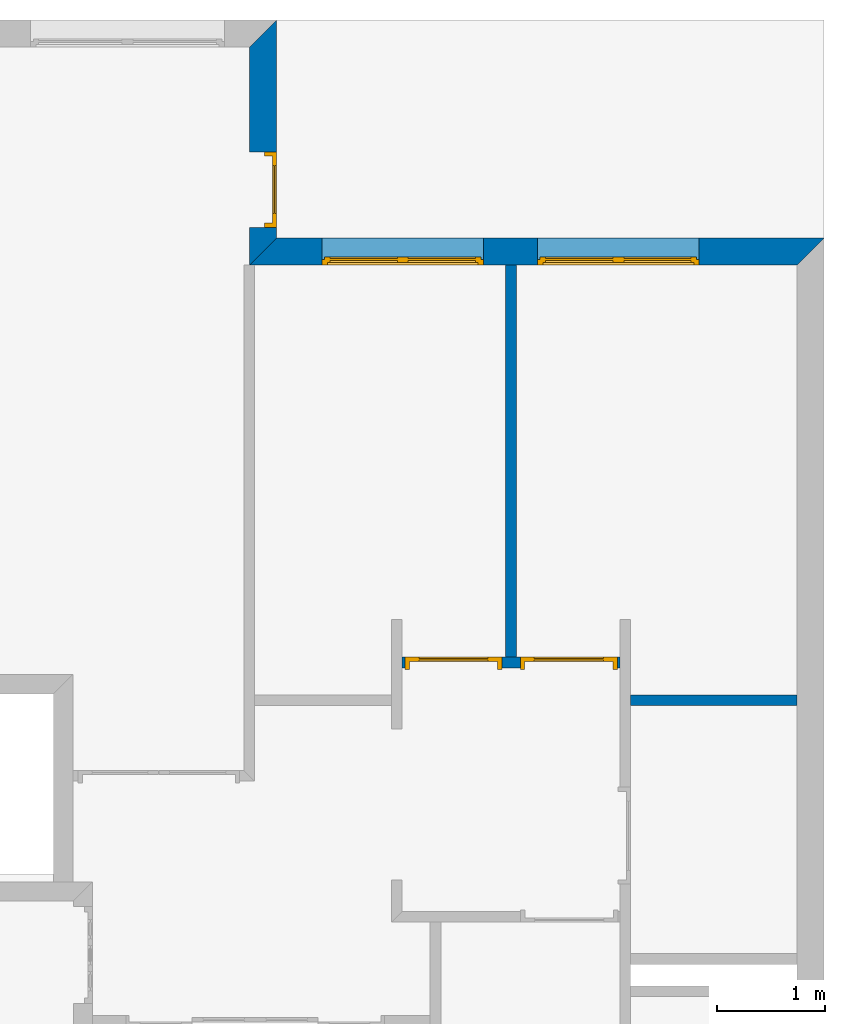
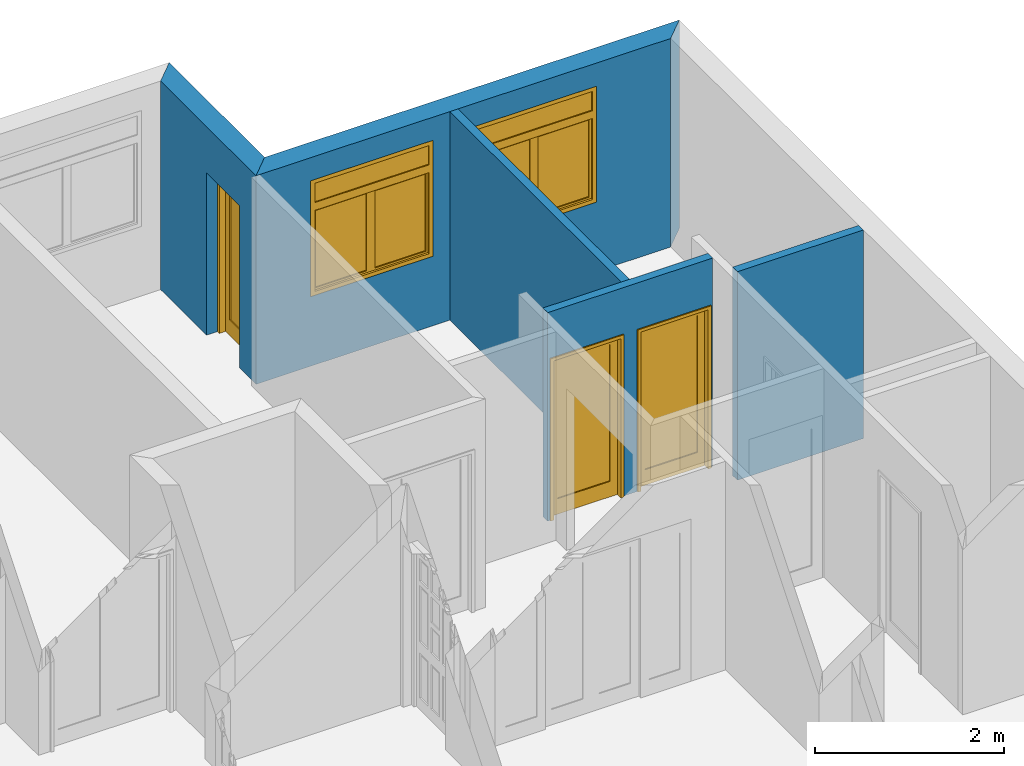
# One storey, part 12 of 12: 5 walls, 3 doors, 2 windows, 5 openings.
"""IFC2X3 building model written with IfcOpenShell, lengths in metres."""

from ifc_helpers import new_model, entity, si_unit, converted_unit, direction, frame, frame_2d, origin_with_axes, place, context, project, spatial, polyline, rectangle, outline, extrude, faceted_brep, source, transform, mapped, material, layer, layer_set, layer_usage, type_object, element, fill, save


model = new_model("IFC2X3")

# Units and contexts
context_of_model = context(None, 3, precision=1e-05, world=origin_with_axes(), true_north=direction((6.123234e-17, 1.0)))
plan_context = context("Plan", 3, precision=1e-05, world=origin_with_axes(), true_north=direction((6.123234e-17, 1.0)))
model_context = context("Model", 3, precision=1e-05, world=origin_with_axes(), true_north=direction((6.123234e-17, 1.0)))
ifc_project = project(units=[si_unit("LENGTHUNIT", "METRE"), si_unit("AREAUNIT", "SQUARE_METRE"), si_unit("VOLUMEUNIT", "CUBIC_METRE"), converted_unit("PLANEANGLEUNIT", "DEGREE", entity("IfcPlaneAngleMeasure", 0.017453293), si_unit("PLANEANGLEUNIT", "RADIAN"), dimensions=[0, 0, 0, 0, 0, 0, 0]), si_unit("SOLIDANGLEUNIT", "STERADIAN"), si_unit("MASSUNIT", "GRAM"), si_unit("TIMEUNIT", "SECOND"), si_unit("THERMODYNAMICTEMPERATUREUNIT", "DEGREE_CELSIUS"), si_unit("LUMINOUSINTENSITYUNIT", "LUMEN")], contexts=[context_of_model, plan_context, model_context])

# Site, building, storey
site_placement = place(None, origin_with_axes())
site = spatial("IfcSite", under=ifc_project, at=site_placement, Name="Por defecto Sitio", CompositionType="ELEMENT")
building_placement = place(site_placement, origin_with_axes())
building = spatial("IfcBuilding", under=site, at=building_placement, Name="Por defecto Edificio", CompositionType="ELEMENT")
storey_placement = place(building_placement, frame((0.0, 0.0, 10.2), z_axis=(0.0, 0.0, 1.0), x_axis=(1.0, 0.0, 0.0)))
storey = spatial("IfcBuildingStorey", under=building, at=storey_placement, Name="Tercera", CompositionType="ELEMENT", Elevation=10.2)

# Wall, opening, door
ifc_material = material(Name="Ladrillo común")
ifc_layer_1 = layer(ifc_material, 0.25, ventilated="UNKNOWN")
ifc_layer_set_1 = layer_set([ifc_layer_1], Name="Ladrillo común")
ifc_layer_usage_1 = layer_usage(ifc_layer_set_1, "AXIS2", "NEGATIVE", 0.0)
wall_type_1 = type_object("IfcWallType", Name="Ladrillo común", PredefinedType="NOTDEFINED")
wall_1_placement = place(storey_placement, frame((10.956053, 15.472599, 0.0), z_axis=(0.0, 0.0, 1.0), x_axis=(0.0, -1.0, 0.0)))
wall_1 = element("IfcWallStandardCase", 1, at=wall_1_placement, inside=storey, type_object=wall_type_1, material=ifc_layer_usage_1, Name="Muro-015", context=context_of_model, shape_type="SweptSolid", body=[
    extrude(outline(polyline([(0.25, -0.25), (2.2734265, -0.25), (2.0234265, 0.0), (0.0, 0.0), (0.25, -0.25)])), origin_with_axes(), (0.0, 0.0, 1.0), 2.7),
])
opening_1_placement = place(wall_1_placement, frame((1.5733904, -0.25, 0.0), z_axis=(0.0, 0.0, 1.0), x_axis=(1.0, 0.0, 0.0)))
opening_1 = element("IfcOpeningElement", 2, at=opening_1_placement, cuts=wall_1, ObjectType="Opening", context=model_context, shape_type="SweptSolid", body=[
    extrude(rectangle(XDim=0.7, YDim=2.1, at=frame_2d((0.0, 1.05), x_axis=(-1.0, 0.0))), frame((0.0, 0.0, 0.0), z_axis=(0.0, 1.0, 0.0), x_axis=(-1.0, 0.0, 0.0)), (0.0, 0.0, 1.0), 0.25),
])
door_style_1 = type_object("IfcDoorStyle", Name="P1 12", ConstructionType="NOTDEFINED", OperationType="SINGLE_SWING_RIGHT", ParameterTakesPrecedence=False, Sizeable=False)
shared_shape_1 = source(origin_with_axes(), model_context, "Body", "Brep", [
    faceted_brep([(0.04, 0.075, 0.0), (0.04, 0.075, 2.06), (0.04, 0.0, 2.06), (0.04, 0.0, 0.0), (0.028, 0.075, 2.06), (0.028, 0.075, 0.0), (0.028, 0.115, 2.06), (0.0, 0.115, 2.06), (0.0, 0.0, 2.06), (0.0, 0.0, 0.0), (0.0, 0.115, 0.0), (0.028, 0.115, 0.0)], [[[0, 1, 2, 3]], [[4, 1, 0, 5]], [[4, 6, 7, 8, 2, 1]], [[9, 3, 2, 8]], [[5, 0, 3, 9, 10, 11]], [[6, 4, 5, 11]], [[6, 11, 10, 7]], [[8, 7, 10, 9]]]),
    faceted_brep([(0.672, 0.075, 2.06), (0.66, 0.075, 2.06), (0.66, 0.0, 2.06), (0.7, 0.0, 2.06), (0.7, 0.115, 2.06), (0.672, 0.115, 2.06), (0.672, 0.075, 0.0), (0.66, 0.075, 0.0), (0.66, 0.0, 0.0), (0.7, 0.0, 0.0), (0.7, 0.115, 0.0), (0.672, 0.115, 0.0)], [[[0, 1, 2, 3, 4, 5]], [[1, 0, 6, 7]], [[1, 7, 8, 2]], [[8, 9, 3, 2]], [[9, 10, 4, 3]], [[11, 5, 4, 10]], [[0, 5, 11, 6]], [[6, 11, 10, 9, 8, 7]]]),
    faceted_brep([(0.028, 0.115, 2.072), (0.028, 0.115, 2.06), (0.0, 0.115, 2.06), (0.0, 0.115, 2.1), (0.7, 0.115, 2.1), (0.7, 0.115, 2.06), (0.672, 0.115, 2.06), (0.672, 0.115, 2.072), (0.028, 0.075, 2.072), (0.028, 0.075, 2.06), (0.04, 0.075, 2.06), (0.04, 0.0, 2.06), (0.0, 0.0, 2.06), (0.0, 0.0, 2.1), (0.7, 0.0, 2.1), (0.7, 0.0, 2.06), (0.672, 0.075, 2.06), (0.66, 0.0, 2.06), (0.66, 0.075, 2.06), (0.672, 0.075, 2.072)], [[[0, 1, 2, 3, 4, 5, 6, 7]], [[1, 0, 8, 9]], [[9, 10, 11, 12, 2, 1]], [[13, 3, 2, 12]], [[14, 4, 3, 13]], [[15, 5, 4, 14]], [[16, 6, 5, 15, 17, 18]], [[7, 6, 16, 19]], [[0, 7, 19, 8]], [[16, 18, 10, 9, 8, 19]], [[10, 18, 17, 11]], [[14, 13, 12, 11, 17, 15]]]),
    faceted_brep([(0.672, 0.115, 0.2), (0.672, 0.075, 0.2), (0.572, 0.075, 0.2), (0.572, 0.115, 0.2), (0.672, 0.115, 1.972), (0.672, 0.075, 1.972), (0.572, 0.075, 1.972), (0.572, 0.115, 1.972)], [[[0, 1, 2, 3]], [[4, 5, 1, 0]], [[1, 5, 6, 2]], [[3, 2, 6, 7]], [[0, 3, 7, 4]], [[7, 6, 5, 4]]]),
    faceted_brep([(0.028, 0.115, 0.2), (0.028, 0.075, 0.2), (0.028, 0.075, 1.972), (0.028, 0.115, 1.972), (0.128, 0.115, 0.2), (0.128, 0.075, 0.2), (0.128, 0.075, 1.972), (0.128, 0.115, 1.972)], [[[0, 1, 2, 3]], [[4, 5, 1, 0]], [[1, 5, 6, 2]], [[3, 2, 6, 7]], [[0, 3, 7, 4]], [[7, 6, 5, 4]]]),
    faceted_brep([(0.672, 0.115, 0.0), (0.672, 0.075, 0.0), (0.028, 0.075, 0.0), (0.028, 0.115, 0.0), (0.672, 0.115, 0.2), (0.672, 0.075, 0.2), (0.572, 0.075, 0.2), (0.128, 0.075, 0.2), (0.028, 0.075, 0.2), (0.028, 0.115, 0.2), (0.128, 0.115, 0.2), (0.572, 0.115, 0.2)], [[[0, 1, 2, 3]], [[4, 5, 1, 0]], [[1, 5, 6, 7, 8, 2]], [[3, 2, 8, 9]], [[0, 3, 9, 10, 11, 4]], [[11, 6, 5, 4]], [[10, 7, 6, 11]], [[9, 8, 7, 10]]]),
    faceted_brep([(0.672, 0.115, 2.072), (0.672, 0.075, 2.072), (0.672, 0.075, 1.972), (0.672, 0.115, 1.972), (0.028, 0.115, 2.072), (0.028, 0.075, 2.072), (0.028, 0.075, 1.972), (0.128, 0.075, 1.972), (0.572, 0.075, 1.972), (0.572, 0.115, 1.972), (0.128, 0.115, 1.972), (0.028, 0.115, 1.972)], [[[0, 1, 2, 3]], [[4, 5, 1, 0]], [[1, 5, 6, 7, 8, 2]], [[3, 2, 8, 9]], [[0, 3, 9, 10, 11, 4]], [[11, 6, 5, 4]], [[10, 7, 6, 11]], [[9, 8, 7, 10]]]),
    faceted_brep([(0.572, 0.101, 0.2), (0.572, 0.089, 0.2), (0.128, 0.089, 0.2), (0.128, 0.101, 0.2), (0.572, 0.101, 1.972), (0.572, 0.089, 1.972), (0.128, 0.089, 1.972), (0.128, 0.101, 1.972)], [[[0, 1, 2, 3]], [[4, 5, 1, 0]], [[1, 5, 6, 2]], [[3, 2, 6, 7]], [[0, 3, 7, 4]], [[7, 6, 5, 4]]]),
])
door_1_placement = place(opening_1_placement, frame((-0.35, 0.135, 0.0), z_axis=(0.0, 0.0, 1.0), x_axis=(1.0, 0.0, 0.0)))
door_1 = element("IfcDoor", 3, at=door_1_placement, inside=storey, type_object=door_style_1, Name="P20", OverallHeight=2.1, OverallWidth=0.7, context=model_context, shape_type="MappedRepresentation", body=[
    mapped(shared_shape_1, transform((0.0, 0.0, 0.0), scale=1.0)),
])
fill(opening_1, door_1)

# Wall, openings, windows
ifc_layer_usage_2 = layer_usage(ifc_layer_set_1, "AXIS2", "NEGATIVE", 0.0)
wall_2_placement = place(storey_placement, frame((10.956053, 13.449173, 0.0), z_axis=(0.0, 0.0, 1.0), x_axis=(1.0, 0.0, 0.0)))
wall_2 = element("IfcWallStandardCase", 4, at=wall_2_placement, inside=storey, type_object=wall_type_1, material=ifc_layer_usage_2, Name="Muro-016", context=context_of_model, shape_type="SweptSolid", body=[
    extrude(outline(polyline([(-0.25, -0.25), (4.8281164, -0.25), (5.0781164, 0.0), (0.0, 0.0), (-0.25, -0.25)])), origin_with_axes(), (0.0, 0.0, 1.0), 2.7),
])
opening_2_placement = place(wall_2_placement, frame((1.1700422, -0.25, 0.9), z_axis=(0.0, 0.0, 1.0), x_axis=(1.0, 0.0, 0.0)))
opening_2 = element("IfcOpeningElement", 5, at=opening_2_placement, cuts=wall_2, ObjectType="Opening", context=model_context, shape_type="SweptSolid", body=[
    extrude(rectangle(XDim=1.5, YDim=1.5, at=frame_2d((0.0, 0.75), x_axis=(-1.0, 0.0))), frame((0.0, 0.0, 0.0), z_axis=(0.0, 1.0, 0.0), x_axis=(-1.0, 0.0, 0.0)), (0.0, 0.0, 1.0), 0.25),
])
opening_3_placement = place(wall_2_placement, frame((3.1700422, -0.25, 0.9), z_axis=(0.0, 0.0, 1.0), x_axis=(1.0, 0.0, 0.0)))
opening_3 = element("IfcOpeningElement", 6, at=opening_3_placement, cuts=wall_2, ObjectType="Opening", context=model_context, shape_type="SweptSolid", body=[
    extrude(rectangle(XDim=1.5, YDim=1.5, at=frame_2d((0.0, 0.75), x_axis=(-1.0, 0.0))), frame((0.0, 0.0, 0.0), z_axis=(0.0, 1.0, 0.0), x_axis=(-1.0, 0.0, 0.0)), (0.0, 0.0, 1.0), 0.25),
])
window_style_1 = type_object("IfcWindowStyle", Name="V M Doble 12", ConstructionType="NOTDEFINED", OperationType="DOUBLE_PANEL_HORIZONTAL", ParameterTakesPrecedence=False, Sizeable=False)
shared_shape_2 = source(origin_with_axes(), model_context, "Body", "Brep", [
    faceted_brep([(1.475, 0.05, 0.05), (1.475, 0.05, 1.125), (1.45, 0.05, 1.125), (1.45, 0.05, 1.2), (1.45, 0.05, 1.45), (1.5, 0.05, 1.45), (1.5, 0.05, 0.05), (1.475, 0.025, 0.05), (1.475, 0.025, 1.125), (1.45, 0.025, 1.125), (1.45, 0.025, 1.1), (1.45, 0.0, 1.1), (1.45, 0.0, 1.2), (1.45, 0.0, 1.45), (1.5, 0.0, 1.45), (1.5, 0.0, 0.05), (1.45, 0.0, 0.05), (1.45, 0.025, 0.05)], [[[0, 1, 2, 3, 4, 5, 6]], [[1, 0, 7, 8]], [[9, 2, 1, 8]], [[9, 10, 11, 12, 3, 2]], [[3, 12, 13, 4]], [[4, 13, 14, 5]], [[5, 14, 15, 6]], [[7, 0, 6, 15, 16, 17]], [[10, 9, 8, 7, 17]], [[10, 17, 16, 11]], [[12, 11, 16, 15, 14, 13]]]),
    faceted_brep([(0.025, 0.05, 1.125), (0.025, 0.05, 0.05), (0.0, 0.05, 0.05), (0.0, 0.05, 1.45), (0.05, 0.05, 1.45), (0.05, 0.05, 1.2), (0.05, 0.05, 1.125), (0.025, 0.025, 1.125), (0.025, 0.025, 0.05), (0.05, 0.025, 0.05), (0.05, 0.0, 0.05), (0.0, 0.0, 0.05), (0.0, 0.0, 1.45), (0.05, 0.0, 1.45), (0.05, 0.0, 1.2), (0.05, 0.025, 1.125), (0.05, 0.0, 1.1), (0.05, 0.025, 1.1)], [[[0, 1, 2, 3, 4, 5, 6]], [[1, 0, 7, 8]], [[8, 9, 10, 11, 2, 1]], [[2, 11, 12, 3]], [[3, 12, 13, 4]], [[4, 13, 14, 5]], [[15, 6, 5, 14, 16, 17]], [[0, 6, 15, 7]], [[9, 8, 7, 15, 17]], [[9, 17, 16, 10]], [[11, 10, 16, 14, 13, 12]]]),
    faceted_brep([(1.45, 0.05, 1.125), (0.75, 0.05, 1.125), (0.05, 0.05, 1.125), (0.05, 0.05, 1.2), (1.45, 0.05, 1.2), (1.45, 0.025, 1.125), (0.75, 0.025, 1.125), (0.05, 0.025, 1.125), (0.05, 0.025, 1.1), (0.05, 0.0, 1.1), (0.05, 0.0, 1.2), (1.45, 0.0, 1.2), (1.45, 0.0, 1.1), (1.45, 0.025, 1.1)], [[[0, 1, 2, 3, 4]], [[1, 0, 5, 6]], [[7, 2, 1, 6]], [[7, 8, 9, 10, 3, 2]], [[3, 10, 11, 4]], [[5, 0, 4, 11, 12, 13]], [[8, 7, 6, 5, 13]], [[8, 13, 12, 9]], [[10, 9, 12, 11]]]),
    faceted_brep([(0.05, 0.025, 0.05), (0.025, 0.025, 0.05), (0.025, 0.05, 0.05), (0.0, 0.05, 0.05), (0.0, 0.0, 0.05), (0.05, 0.0, 0.05), (1.45, 0.025, 0.05), (1.475, 0.025, 0.05), (1.475, 0.025, 0.025), (0.75, 0.025, 0.025), (0.025, 0.025, 0.025), (0.025, 0.05, 0.025), (1.475, 0.05, 0.025), (1.475, 0.05, 0.05), (1.5, 0.05, 0.05), (1.5, 0.05, 0.0), (0.0, 0.05, 0.0), (0.75, 0.05, 0.025), (0.0, 0.0, 0.0), (1.5, 0.0, 0.05), (1.45, 0.0, 0.05), (1.5, 0.0, 0.0)], [[[0, 1, 2, 3, 4, 5]], [[1, 0, 6, 7, 8, 9, 10]], [[11, 2, 1, 10]], [[12, 13, 14, 15, 16, 3, 2, 11, 17]], [[16, 18, 4, 3]], [[19, 20, 5, 4, 18, 21]], [[6, 0, 5, 20]], [[7, 6, 20, 19, 14, 13]], [[7, 13, 12, 8]], [[12, 17, 9, 8]], [[17, 11, 10, 9]], [[14, 19, 21, 15]], [[15, 21, 18, 16]]]),
    faceted_brep([(0.05, 0.0, 1.45), (0.0, 0.0, 1.45), (0.0, 0.05, 1.45), (0.05, 0.05, 1.45), (1.45, 0.0, 1.45), (1.5, 0.0, 1.45), (1.5, 0.0, 1.5), (0.0, 0.0, 1.5), (0.0, 0.05, 1.5), (1.5, 0.05, 1.5), (1.5, 0.05, 1.45), (1.45, 0.05, 1.45)], [[[0, 1, 2, 3]], [[0, 4, 5, 6, 7, 1]], [[1, 7, 8, 2]], [[3, 2, 8, 9, 10, 11]], [[4, 0, 3, 11]], [[5, 4, 11, 10]], [[6, 5, 10, 9]], [[7, 6, 9, 8]]]),
    faceted_brep([(0.075, 0.025, 0.075), (0.075, 0.075, 0.075), (0.075, 0.075, 1.075), (0.075, 0.025, 1.075), (0.025, 0.025, 0.075), (0.025, 0.075, 0.075), (0.025, 0.075, 1.075), (0.025, 0.025, 1.075)], [[[0, 1, 2, 3]], [[4, 5, 1, 0]], [[1, 5, 6, 2]], [[3, 2, 6, 7]], [[0, 3, 7, 4]], [[7, 6, 5, 4]]]),
    faceted_brep([(0.75, 0.025, 0.075), (0.75, 0.075, 0.075), (0.75, 0.075, 1.075), (0.75, 0.025, 1.075), (0.7, 0.025, 0.075), (0.7, 0.075, 0.075), (0.7, 0.075, 1.075), (0.7, 0.025, 1.075)], [[[0, 1, 2, 3]], [[4, 5, 1, 0]], [[1, 5, 6, 2]], [[3, 2, 6, 7]], [[0, 3, 7, 4]], [[7, 6, 5, 4]]]),
    faceted_brep([(0.75, 0.025, 0.025), (0.75, 0.075, 0.025), (0.75, 0.075, 0.075), (0.75, 0.025, 0.075), (0.025, 0.025, 0.025), (0.025, 0.075, 0.025), (0.025, 0.075, 0.075), (0.075, 0.075, 0.075), (0.7, 0.075, 0.075), (0.7, 0.025, 0.075), (0.075, 0.025, 0.075), (0.025, 0.025, 0.075)], [[[0, 1, 2, 3]], [[4, 5, 1, 0]], [[1, 5, 6, 7, 8, 2]], [[3, 2, 8, 9]], [[0, 3, 9, 10, 11, 4]], [[11, 6, 5, 4]], [[10, 7, 6, 11]], [[9, 8, 7, 10]]]),
    faceted_brep([(0.025, 0.025, 1.125), (0.025, 0.075, 1.125), (0.025, 0.075, 1.075), (0.025, 0.025, 1.075), (0.75, 0.025, 1.125), (0.75, 0.075, 1.125), (0.75, 0.075, 1.075), (0.7, 0.075, 1.075), (0.075, 0.075, 1.075), (0.075, 0.025, 1.075), (0.7, 0.025, 1.075), (0.75, 0.025, 1.075)], [[[0, 1, 2, 3]], [[4, 5, 1, 0]], [[1, 5, 6, 7, 8, 2]], [[3, 2, 8, 9]], [[0, 3, 9, 10, 11, 4]], [[11, 6, 5, 4]], [[10, 7, 6, 11]], [[9, 8, 7, 10]]]),
    faceted_brep([(0.075, 0.04, 0.075), (0.075, 0.06, 0.075), (0.7, 0.06, 0.075), (0.7, 0.04, 0.075), (0.075, 0.04, 1.075), (0.075, 0.06, 1.075), (0.7, 0.06, 1.075), (0.7, 0.04, 1.075)], [[[0, 1, 2, 3]], [[4, 5, 1, 0]], [[1, 5, 6, 2]], [[3, 2, 6, 7]], [[0, 3, 7, 4]], [[7, 6, 5, 4]]]),
    faceted_brep([(0.8, 0.025, 0.075), (0.8, 0.075, 0.075), (0.8, 0.075, 1.075), (0.8, 0.025, 1.075), (0.75, 0.025, 0.075), (0.75, 0.075, 0.075), (0.75, 0.075, 1.075), (0.75, 0.025, 1.075)], [[[0, 1, 2, 3]], [[4, 5, 1, 0]], [[1, 5, 6, 2]], [[3, 2, 6, 7]], [[0, 3, 7, 4]], [[7, 6, 5, 4]]]),
    faceted_brep([(1.475, 0.025, 0.075), (1.475, 0.075, 0.075), (1.475, 0.075, 1.075), (1.475, 0.025, 1.075), (1.425, 0.025, 0.075), (1.425, 0.075, 0.075), (1.425, 0.075, 1.075), (1.425, 0.025, 1.075)], [[[0, 1, 2, 3]], [[4, 5, 1, 0]], [[1, 5, 6, 2]], [[3, 2, 6, 7]], [[0, 3, 7, 4]], [[7, 6, 5, 4]]]),
    faceted_brep([(1.475, 0.025, 0.025), (1.475, 0.075, 0.025), (1.475, 0.075, 0.075), (1.475, 0.025, 0.075), (0.75, 0.025, 0.025), (0.75, 0.075, 0.025), (0.75, 0.075, 0.075), (0.8, 0.075, 0.075), (1.425, 0.075, 0.075), (1.425, 0.025, 0.075), (0.8, 0.025, 0.075), (0.75, 0.025, 0.075)], [[[0, 1, 2, 3]], [[4, 5, 1, 0]], [[1, 5, 6, 7, 8, 2]], [[3, 2, 8, 9]], [[0, 3, 9, 10, 11, 4]], [[11, 6, 5, 4]], [[10, 7, 6, 11]], [[9, 8, 7, 10]]]),
    faceted_brep([(0.75, 0.025, 1.125), (0.75, 0.075, 1.125), (0.75, 0.075, 1.075), (0.75, 0.025, 1.075), (1.475, 0.025, 1.125), (1.475, 0.075, 1.125), (1.475, 0.075, 1.075), (1.425, 0.075, 1.075), (0.8, 0.075, 1.075), (0.8, 0.025, 1.075), (1.425, 0.025, 1.075), (1.475, 0.025, 1.075)], [[[0, 1, 2, 3]], [[4, 5, 1, 0]], [[1, 5, 6, 7, 8, 2]], [[3, 2, 8, 9]], [[0, 3, 9, 10, 11, 4]], [[11, 6, 5, 4]], [[10, 7, 6, 11]], [[9, 8, 7, 10]]]),
    faceted_brep([(0.8, 0.04, 0.075), (0.8, 0.06, 0.075), (1.425, 0.06, 0.075), (1.425, 0.04, 0.075), (0.8, 0.04, 1.075), (0.8, 0.06, 1.075), (1.425, 0.06, 1.075), (1.425, 0.04, 1.075)], [[[0, 1, 2, 3]], [[4, 5, 1, 0]], [[1, 5, 6, 2]], [[3, 2, 6, 7]], [[0, 3, 7, 4]], [[7, 6, 5, 4]]]),
    faceted_brep([(0.05, 0.015, 1.2), (0.05, 0.035, 1.2), (1.45, 0.035, 1.2), (1.45, 0.015, 1.2), (0.05, 0.015, 1.45), (0.05, 0.035, 1.45), (1.45, 0.035, 1.45), (1.45, 0.015, 1.45)], [[[0, 1, 2, 3]], [[4, 5, 1, 0]], [[1, 5, 6, 2]], [[3, 2, 6, 7]], [[0, 3, 7, 4]], [[7, 6, 5, 4]]]),
])
window_1_placement = place(opening_2_placement, frame((-0.75, 0.0, 0.0), z_axis=(0.0, 0.0, 1.0), x_axis=(1.0, 0.0, 0.0)))
window_1 = element("IfcWindow", 7, at=window_1_placement, inside=storey, type_object=window_style_1, Name="V06", OverallHeight=1.5, OverallWidth=1.5, context=model_context, shape_type="MappedRepresentation", body=[
    mapped(shared_shape_2, transform((0.0, 0.0, 0.0), scale=1.0)),
])
fill(opening_2, window_1)
window_style_2 = type_object("IfcWindowStyle", Name="V M Doble 12", ConstructionType="NOTDEFINED", OperationType="DOUBLE_PANEL_HORIZONTAL", ParameterTakesPrecedence=False, Sizeable=False)
window_2_placement = place(opening_3_placement, frame((-0.75, 0.0, 0.0), z_axis=(0.0, 0.0, 1.0), x_axis=(1.0, 0.0, 0.0)))
window_2 = element("IfcWindow", 8, at=window_2_placement, inside=storey, type_object=window_style_2, Name="V07", OverallHeight=1.5, OverallWidth=1.5, context=model_context, shape_type="MappedRepresentation", body=[
    mapped(shared_shape_2, transform((0.0, 0.0, 0.0), scale=1.0)),
])
fill(opening_3, window_2)

# Wall, openings, doors
ifc_layer_2 = layer(ifc_material, 0.1, ventilated="UNKNOWN")
ifc_layer_set_2 = layer_set([ifc_layer_2], Name="Ladrillo común")
ifc_layer_usage_3 = layer_usage(ifc_layer_set_2, "AXIS2", "NEGATIVE", 0.0)
wall_type_2 = type_object("IfcWallType", Name="Ladrillo común", PredefinedType="NOTDEFINED")
wall_3_placement = place(storey_placement, frame((14.139835, 9.4609196, 0.0), z_axis=(0.0, 0.0, 1.0), x_axis=(-1.0, 0.0, 0.0)))
wall_3 = element("IfcWallStandardCase", 9, at=wall_3_placement, inside=storey, type_object=wall_type_2, material=ifc_layer_usage_3, Name="Muro-038", context=context_of_model, shape_type="SweptSolid", body=[
    extrude(outline(polyline([(0.0, -0.1), (2.02, -0.1), (2.02, 0.0), (0.0, 0.0), (0.0, -0.1)])), origin_with_axes(), (0.0, 0.0, 1.0), 2.7),
])
opening_4_placement = place(wall_3_placement, frame((0.47352068, -0.1, 0.0), z_axis=(0.0, 0.0, 1.0), x_axis=(1.0, 0.0, 0.0)))
opening_4 = element("IfcOpeningElement", 10, at=opening_4_placement, cuts=wall_3, ObjectType="Opening", context=model_context, shape_type="SweptSolid", body=[
    extrude(rectangle(XDim=0.9, YDim=2.1, at=frame_2d((0.0, 1.05), x_axis=(-1.0, 0.0))), frame((0.0, 0.0, 0.0), z_axis=(0.0, 1.0, 0.0), x_axis=(-1.0, 0.0, 0.0)), (0.0, 0.0, 1.0), 0.1),
])
opening_5_placement = place(wall_3_placement, frame((1.5434387, -0.1, 0.0), z_axis=(0.0, 0.0, 1.0), x_axis=(1.0, 0.0, 0.0)))
opening_5 = element("IfcOpeningElement", 11, at=opening_5_placement, cuts=wall_3, ObjectType="Opening", context=model_context, shape_type="SweptSolid", body=[
    extrude(rectangle(XDim=0.9, YDim=2.1, at=frame_2d((0.0, 1.05), x_axis=(1.0, 0.0))), frame((0.0, 0.0, 0.0), z_axis=(0.0, 1.0, 0.0), x_axis=(-1.0, 0.0, 0.0)), (0.0, 0.0, 1.0), 0.1),
])
door_style_2 = type_object("IfcDoorStyle", Name="P1 12", ConstructionType="NOTDEFINED", OperationType="SINGLE_SWING_RIGHT", ParameterTakesPrecedence=False, Sizeable=False)
shared_shape_3 = source(origin_with_axes(), model_context, "Body", "Brep", [
    faceted_brep([(0.04, 0.075, -2.4492936e-18), (0.04, 0.075, 2.06), (0.04, -9.3258734e-14, 2.06), (0.04, -9.3258734e-14, -7.0417191e-18), (0.028, 0.075, 2.06), (0.028, 0.075, -2.4492936e-18), (0.028, 0.115, 2.06), (2.220446e-16, 0.115, 2.06), (1.7763568e-15, -9.4146912e-14, 2.06), (0.0, 0.0, 0.0), (2.220446e-16, 0.115, 3.3744595e-33), (0.028, 0.115, 3.2707143e-33)], [[[0, 1, 2, 3]], [[4, 1, 0, 5]], [[4, 6, 7, 8, 2, 1]], [[9, 3, 2, 8]], [[5, 0, 3, 9, 10, 11]], [[6, 4, 5, 11]], [[6, 11, 10, 7]], [[8, 7, 10, 9]]]),
    faceted_brep([(0.872, 0.075, 2.06), (0.86, 0.075, 2.06), (0.86, -8.0824236e-14, 2.06), (0.9, -7.9936058e-14, 2.06), (0.9, 0.115, 2.06), (0.872, 0.115, 2.06), (0.872, 0.075, -2.4492936e-18), (0.86, 0.075, -2.4492936e-18), (0.86, -8.0824236e-14, -7.0417191e-18), (0.9, -7.9936058e-14, -7.0417191e-18), (0.9, 0.115, -3.3744595e-33), (0.872, 0.115, -3.1644931e-33)], [[[0, 1, 2, 3, 4, 5]], [[1, 0, 6, 7]], [[1, 7, 8, 2]], [[8, 9, 3, 2]], [[9, 10, 4, 3]], [[11, 5, 4, 10]], [[0, 5, 11, 6]], [[6, 11, 10, 9, 8, 7]]]),
    faceted_brep([(0.028, 0.115, 2.072), (0.028, 0.115, 2.06), (2.220446e-16, 0.115, 2.06), (2.220446e-16, 0.115, 2.1), (0.9, 0.115, 2.1), (0.9, 0.115, 2.06), (0.872, 0.115, 2.06), (0.872, 0.115, 2.072), (0.028, 0.075, 2.072), (0.028, 0.075, 2.06), (0.04, 0.075, 2.06), (0.04, -9.3258734e-14, 2.06), (1.7763568e-15, -9.4146912e-14, 2.06), (1.7763568e-15, -9.4146912e-14, 2.1), (0.9, -7.9936058e-14, 2.1), (0.9, -7.9936058e-14, 2.06), (0.872, 0.075, 2.06), (0.86, -8.0824236e-14, 2.06), (0.86, 0.075, 2.06), (0.872, 0.075, 2.072)], [[[0, 1, 2, 3, 4, 5, 6, 7]], [[1, 0, 8, 9]], [[9, 10, 11, 12, 2, 1]], [[13, 3, 2, 12]], [[14, 4, 3, 13]], [[15, 5, 4, 14]], [[16, 6, 5, 15, 17, 18]], [[7, 6, 16, 19]], [[0, 7, 19, 8]], [[16, 18, 10, 9, 8, 19]], [[10, 18, 17, 11]], [[14, 13, 12, 11, 17, 15]]]),
    faceted_brep([(0.872, 0.115, 0.2), (0.872, 0.075, 0.2), (0.772, 0.075, 0.2), (0.772, 0.115, 0.2), (0.872, 0.115, 1.972), (0.872, 0.075, 1.972), (0.772, 0.075, 1.972), (0.772, 0.115, 1.972)], [[[0, 1, 2, 3]], [[4, 5, 1, 0]], [[1, 5, 6, 2]], [[3, 2, 6, 7]], [[0, 3, 7, 4]], [[7, 6, 5, 4]]]),
    faceted_brep([(0.028, 0.115, 0.2), (0.028, 0.075, 0.2), (0.028, 0.075, 1.972), (0.028, 0.115, 1.972), (0.128, 0.115, 0.2), (0.128, 0.075, 0.2), (0.128, 0.075, 1.972), (0.128, 0.115, 1.972)], [[[0, 1, 2, 3]], [[4, 5, 1, 0]], [[1, 5, 6, 2]], [[3, 2, 6, 7]], [[0, 3, 7, 4]], [[7, 6, 5, 4]]]),
    faceted_brep([(0.872, 0.115, -3.1644931e-33), (0.872, 0.075, -2.4492936e-18), (0.028, 0.075, -2.4492936e-18), (0.028, 0.115, 3.1644931e-33), (0.872, 0.115, 0.2), (0.872, 0.075, 0.2), (0.772, 0.075, 0.2), (0.128, 0.075, 0.2), (0.028, 0.075, 0.2), (0.028, 0.115, 0.2), (0.128, 0.115, 0.2), (0.772, 0.115, 0.2)], [[[0, 1, 2, 3]], [[4, 5, 1, 0]], [[1, 5, 6, 7, 8, 2]], [[3, 2, 8, 9]], [[0, 3, 9, 10, 11, 4]], [[11, 6, 5, 4]], [[10, 7, 6, 11]], [[9, 8, 7, 10]]]),
    faceted_brep([(0.872, 0.115, 2.072), (0.872, 0.075, 2.072), (0.872, 0.075, 1.972), (0.872, 0.115, 1.972), (0.028, 0.115, 2.072), (0.028, 0.075, 2.072), (0.028, 0.075, 1.972), (0.128, 0.075, 1.972), (0.772, 0.075, 1.972), (0.772, 0.115, 1.972), (0.128, 0.115, 1.972), (0.028, 0.115, 1.972)], [[[0, 1, 2, 3]], [[4, 5, 1, 0]], [[1, 5, 6, 7, 8, 2]], [[3, 2, 8, 9]], [[0, 3, 9, 10, 11, 4]], [[11, 6, 5, 4]], [[10, 7, 6, 11]], [[9, 8, 7, 10]]]),
    faceted_brep([(0.772, 0.101, 0.2), (0.772, 0.089, 0.2), (0.128, 0.089, 0.2), (0.128, 0.101, 0.2), (0.772, 0.101, 1.972), (0.772, 0.089, 1.972), (0.128, 0.089, 1.972), (0.128, 0.101, 1.972)], [[[0, 1, 2, 3]], [[4, 5, 1, 0]], [[1, 5, 6, 2]], [[3, 2, 6, 7]], [[0, 3, 7, 4]], [[7, 6, 5, 4]]]),
])
door_2_placement = place(opening_5_placement, frame((0.45, 0.115, 0.0), z_axis=(0.0, 0.0, 1.0), x_axis=(-1.0, 0.0, 0.0)))
door_2 = element("IfcDoor", 12, at=door_2_placement, inside=storey, type_object=door_style_2, Name="P22", OverallHeight=2.1, OverallWidth=0.9, context=model_context, shape_type="MappedRepresentation", body=[
    mapped(shared_shape_3, transform((0.0, 0.0, 0.0), scale=1.0)),
])
fill(opening_5, door_2)
door_style_3 = type_object("IfcDoorStyle", Name="P1 12", ConstructionType="NOTDEFINED", OperationType="SINGLE_SWING_LEFT", ParameterTakesPrecedence=False, Sizeable=False)
shared_shape_4 = source(origin_with_axes(), model_context, "Body", "Brep", [
    faceted_brep([(0.86, 0.075, -3.6739404e-18), (0.86, 0.0, 9.184851e-19), (0.86, 0.0, 2.06), (0.86, 0.075, 2.06), (0.872, 0.075, -3.6739404e-18), (0.872, 0.115, -6.123234e-18), (0.9, 0.115, -6.123234e-18), (0.9, 0.0, 9.184851e-19), (0.9, 0.0, 2.06), (0.872, 0.075, 2.06), (0.9, 0.115, 2.06), (0.872, 0.115, 2.06)], [[[0, 1, 2, 3]], [[4, 5, 6, 7, 1, 0]], [[7, 8, 2, 1]], [[9, 3, 2, 8, 10, 11]], [[9, 4, 0, 3]], [[11, 5, 4, 9]], [[11, 10, 6, 5]], [[8, 7, 6, 10]]]),
    faceted_brep([(0.028, 0.075, 2.06), (0.028, 0.115, 2.06), (0.0, 0.115, 2.06), (0.0, 0.0, 2.06), (0.04, 0.0, 2.06), (0.04, 0.075, 2.06), (0.028, 0.075, -3.6739404e-18), (0.028, 0.115, -6.123234e-18), (0.0, 0.115, -6.123234e-18), (0.0, 0.0, 0.0), (0.04, 0.0, 9.184851e-19), (0.04, 0.075, -3.6739404e-18)], [[[0, 1, 2, 3, 4, 5]], [[0, 6, 7, 1]], [[7, 8, 2, 1]], [[9, 3, 2, 8]], [[10, 4, 3, 9]], [[5, 4, 10, 11]], [[5, 11, 6, 0]], [[6, 11, 10, 9, 8, 7]]]),
    faceted_brep([(0.872, 0.115, 2.072), (0.028, 0.115, 2.072), (0.028, 0.115, 2.06), (0.0, 0.115, 2.06), (0.0, 0.115, 2.1), (0.9, 0.115, 2.1), (0.9, 0.115, 2.06), (0.872, 0.115, 2.06), (0.872, 0.075, 2.072), (0.028, 0.075, 2.072), (0.028, 0.075, 2.06), (0.04, 0.075, 2.06), (0.04, 0.0, 2.06), (0.0, 0.0, 2.06), (0.0, 0.0, 2.1), (0.9, 0.0, 2.1), (0.9, 0.0, 2.06), (0.872, 0.075, 2.06), (0.86, 0.0, 2.06), (0.86, 0.075, 2.06)], [[[0, 1, 2, 3, 4, 5, 6, 7]], [[0, 8, 9, 1]], [[1, 9, 10, 2]], [[10, 11, 12, 13, 3, 2]], [[13, 14, 4, 3]], [[14, 15, 5, 4]], [[15, 16, 6, 5]], [[17, 7, 6, 16, 18, 19]], [[7, 17, 8, 0]], [[10, 9, 8, 17, 19, 11]], [[19, 18, 12, 11]], [[14, 13, 12, 18, 16, 15]]]),
    faceted_brep([(0.028, 0.115, 0.2), (0.128, 0.115, 0.2), (0.128, 0.075, 0.2), (0.028, 0.075, 0.2), (0.028, 0.115, 1.972), (0.128, 0.115, 1.972), (0.128, 0.075, 1.972), (0.028, 0.075, 1.972)], [[[0, 1, 2, 3]], [[0, 4, 5, 1]], [[1, 5, 6, 2]], [[3, 2, 6, 7]], [[4, 0, 3, 7]], [[5, 4, 7, 6]]]),
    faceted_brep([(0.872, 0.115, 0.2), (0.872, 0.115, 1.972), (0.872, 0.075, 1.972), (0.872, 0.075, 0.2), (0.772, 0.115, 0.2), (0.772, 0.115, 1.972), (0.772, 0.075, 1.972), (0.772, 0.075, 0.2)], [[[0, 1, 2, 3]], [[0, 4, 5, 1]], [[1, 5, 6, 2]], [[3, 2, 6, 7]], [[4, 0, 3, 7]], [[5, 4, 7, 6]]]),
    faceted_brep([(0.028, 0.115, -6.123234e-18), (0.872, 0.115, -6.123234e-18), (0.872, 0.075, -3.6739404e-18), (0.028, 0.075, -3.6739404e-18), (0.028, 0.115, 0.2), (0.128, 0.115, 0.2), (0.772, 0.115, 0.2), (0.872, 0.115, 0.2), (0.872, 0.075, 0.2), (0.772, 0.075, 0.2), (0.128, 0.075, 0.2), (0.028, 0.075, 0.2)], [[[0, 1, 2, 3]], [[0, 4, 5, 6, 7, 1]], [[1, 7, 8, 2]], [[3, 2, 8, 9, 10, 11]], [[4, 0, 3, 11]], [[5, 4, 11, 10]], [[6, 5, 10, 9]], [[7, 6, 9, 8]]]),
    faceted_brep([(0.028, 0.115, 2.072), (0.028, 0.115, 1.972), (0.028, 0.075, 1.972), (0.028, 0.075, 2.072), (0.872, 0.115, 2.072), (0.872, 0.115, 1.972), (0.772, 0.115, 1.972), (0.128, 0.115, 1.972), (0.128, 0.075, 1.972), (0.772, 0.075, 1.972), (0.872, 0.075, 1.972), (0.872, 0.075, 2.072)], [[[0, 1, 2, 3]], [[0, 4, 5, 6, 7, 1]], [[1, 7, 8, 2]], [[3, 2, 8, 9, 10, 11]], [[4, 0, 3, 11]], [[5, 4, 11, 10]], [[6, 5, 10, 9]], [[7, 6, 9, 8]]]),
    faceted_brep([(0.128, 0.101, 0.2), (0.772, 0.101, 0.2), (0.772, 0.089, 0.2), (0.128, 0.089, 0.2), (0.128, 0.101, 1.972), (0.772, 0.101, 1.972), (0.772, 0.089, 1.972), (0.128, 0.089, 1.972)], [[[0, 1, 2, 3]], [[0, 4, 5, 1]], [[1, 5, 6, 2]], [[3, 2, 6, 7]], [[4, 0, 3, 7]], [[5, 4, 7, 6]]]),
])
door_3_placement = place(opening_4_placement, frame((0.45, 0.115, 0.0), z_axis=(0.0, 0.0, 1.0), x_axis=(-1.0, 0.0, 0.0)))
door_3 = element("IfcDoor", 13, at=door_3_placement, inside=storey, type_object=door_style_3, Name="P21", OverallHeight=2.1, OverallWidth=0.9, context=model_context, shape_type="MappedRepresentation", body=[
    mapped(shared_shape_4, transform((0.0, 0.0, 0.0), scale=1.0)),
])
fill(opening_4, door_3)

# Walls
ifc_layer_usage_4 = layer_usage(ifc_layer_set_2, "AXIS2", "NEGATIVE", 0.0)
wall_4_placement = place(storey_placement, frame((13.079835, 9.4609196, 0.0), z_axis=(0.0, 0.0, 1.0), x_axis=(0.0, 1.0, 0.0)))
element("IfcWallStandardCase", 14, at=wall_4_placement, inside=storey, type_object=wall_type_2, material=ifc_layer_usage_4, Name="Muro-039", context=context_of_model, shape_type="SweptSolid", body=[
    extrude(outline(polyline([(0.1, -0.1), (3.738253, -0.1), (3.738253, 0.0), (0.1, 0.0), (0.1, -0.1)])), origin_with_axes(), (0.0, 0.0, 1.0), 2.7),
])
ifc_layer_usage_5 = layer_usage(ifc_layer_set_2, "AXIS2", "NEGATIVE", 0.0)
wall_5_placement = place(storey_placement, frame((14.139835, 9.2109196, 0.0), z_axis=(0.0, 0.0, 1.0), x_axis=(1.0, 0.0, 0.0)))
element("IfcWallStandardCase", 15, at=wall_5_placement, inside=storey, type_object=wall_type_2, material=ifc_layer_usage_5, Name="Muro-037", context=context_of_model, shape_type="SweptSolid", body=[
    extrude(outline(polyline([(0.1, -0.1), (1.6443351, -0.1), (1.6443351, 0.0), (0.1, 0.0), (0.1, -0.1)])), origin_with_axes(), (0.0, 0.0, 1.0), 2.7),
])

save(model, "model.ifc")
